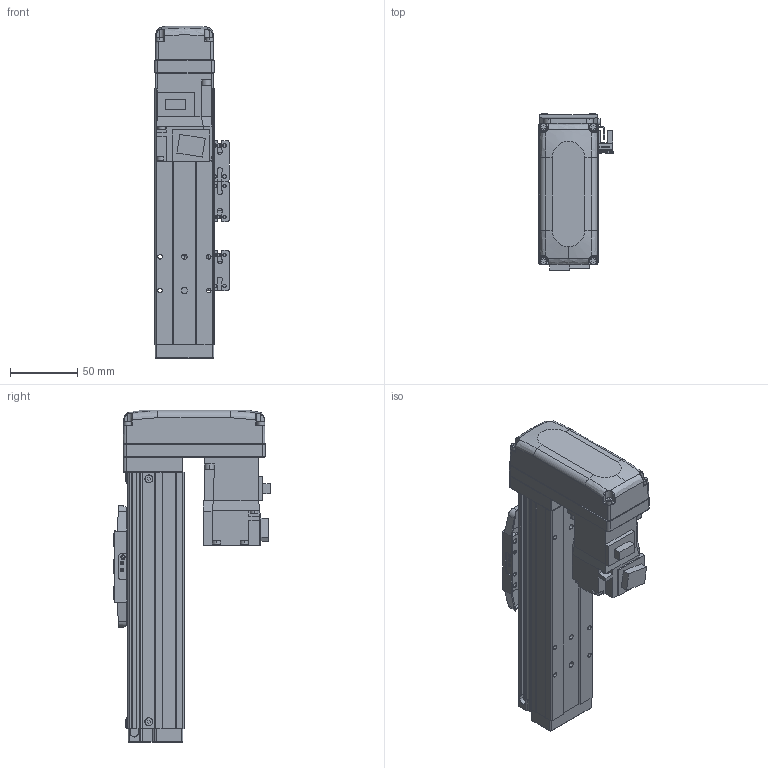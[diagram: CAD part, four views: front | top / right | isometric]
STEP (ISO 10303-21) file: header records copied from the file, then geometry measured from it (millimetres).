
FILE_DESCRIPTION (( 'STEP AP203' ), '1' );
FILE_NAME ('BTH40-50-BM-M05-C4.step', '2021-12-16T00:19:07', ( '微软用户' ), ( '微软中国' ), 'SwSTEP 2.0', 'SolidWorks 2020', '' );
FILE_SCHEMA (( 'CONFIG_CONTROL_DESIGN' ));
Length unit declared in the file: millimetre
Products named in the file (19): BTH50-026; GBT 70.1-M2.5×6; GBT70.1-2000 M3×16; BTH40-50-BM-M05-C4; BTH40-004; BTH50-028; BTH40-013; BTH50-023; BTH40-001-50_BTH40-001-50; HG-KR13; BTH50-024; BTH40-003; GBT 70.3-M3℅6; GBT 70.1-M3℅6; GBT96.1-2002 3×0.8; BTH40-006; BTH40-027-1; BTH40-022; BTH-M3X5X6
Assembly tree (47 placements, depth 2):
  BTH40-50-BM-M05-C4
    BTH40-001-50_BTH40-001-50
    BTH40-003
    BTH40-006
    BTH-M3X5X6  x8
    GBT70.1-2000 M3×16  x4
    BTH50-028  x2
    BTH50-023  x3
    BTH50-024  x3
    GBT 70.1-M3℅6  x6
    GBT96.1-2002 3×0.8  x6
    BTH40-022
    GBT 70.1-M2.5×6  x2
    BTH40-004
    BTH40-013
    HG-KR13
    GBT 70.3-M3℅6  x4
    BTH40-027-1
    BTH50-026
Bounding box: 55.2 x 115.8 x 246 mm (x, y, z)
Volume: 614723.5 mm3; surface area: 136492.9 mm2
Topology: 49 solids, 49 shells, 1967 faces, 4611 edges, 2834 vertices
Faces by surface type: plane 1052, cylinder 479, cone 270, torus 128, bspline 34, sphere 4
Entity records: 39099 total; most frequent: CARTESIAN_POINT 7498, DIRECTION 6112, ORIENTED_EDGE 5868, EDGE_CURVE 2934, AXIS2_PLACEMENT_3D 2083, VECTOR 1946, LINE 1946, VERTEX_POINT 1821
